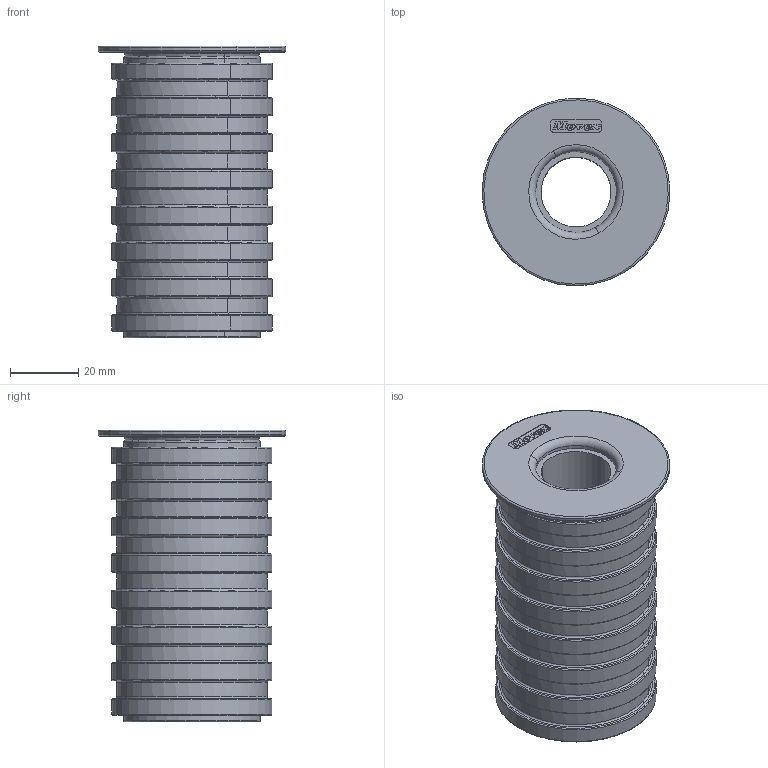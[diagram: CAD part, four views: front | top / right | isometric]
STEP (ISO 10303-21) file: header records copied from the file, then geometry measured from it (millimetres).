
FILE_DESCRIPTION(('STEP AP214'),'1');
FILE_NAME('P22303','2017-05-10T09:25:43',('dentellad'),(' '),'Spatial InterOp 3D',' ',' ');
FILE_SCHEMA(('automotive_design'));
Length unit declared in the file: millimetre
Products named in the file (1): 1
Bounding box: 54.98 x 54.98 x 85.5 mm (x, y, z)
Volume: 110228.5 mm3; surface area: 25400.1 mm2
Topology: 1 solids, 2 shells, 652 faces, 1789 edges, 1167 vertices
Faces by surface type: plane 472, torus 114, cylinder 56, cone 10
Entity records: 34591 total; most frequent: CARTESIAN_POINT 3695, ORIENTED_EDGE 3578, DIRECTION 3468, STYLED_ITEM 2406, PRESENTATION_STYLE_ASSIGNMENT 2406, COLOUR_RGB 2406, EDGE_CURVE 1789, CURVE_STYLE 1753
